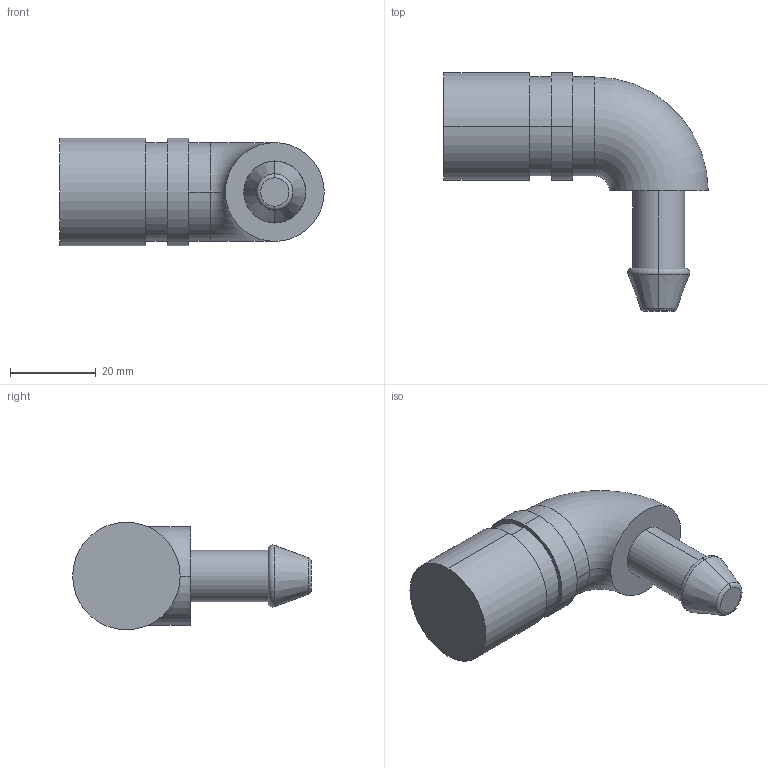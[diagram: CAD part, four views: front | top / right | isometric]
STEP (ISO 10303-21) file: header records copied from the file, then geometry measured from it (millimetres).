
FILE_DESCRIPTION (( 'STEP AP214' ), '1' );
FILE_NAME ('BR601.09 HGB 12-90º.STEP', '2020-12-02T14:02:47', ( '' ), ( '' ), 'SwSTEP 2.0', 'SolidWorks 2018', '' );
FILE_SCHEMA (( 'AUTOMOTIVE_DESIGN' ));
Length unit declared in the file: millimetre
Products named in the file (1): BR601.09 HGB 12-90º
Bounding box: 61.5 x 55.5 x 25 mm (x, y, z)
Volume: 29328.4 mm3; surface area: 6546.6 mm2
Topology: 1 solids, 1 shells, 27 faces, 54 edges, 34 vertices
Faces by surface type: cylinder 12, plane 7, torus 6, cone 2
Entity records: 754 total; most frequent: DIRECTION 150, CARTESIAN_POINT 116, ORIENTED_EDGE 108, AXIS2_PLACEMENT_3D 68, EDGE_CURVE 54, CIRCLE 40, VERTEX_POINT 34, EDGE_LOOP 32
